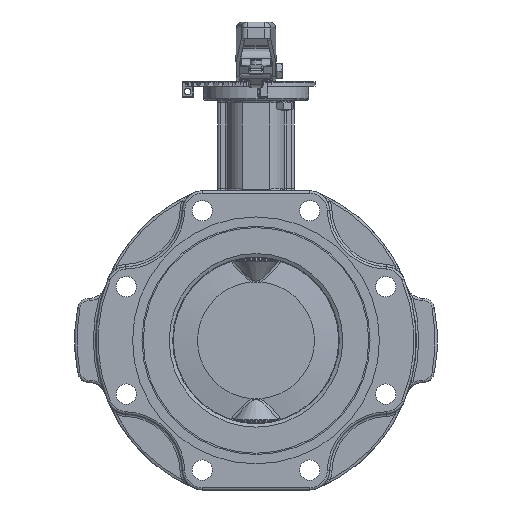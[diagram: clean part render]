
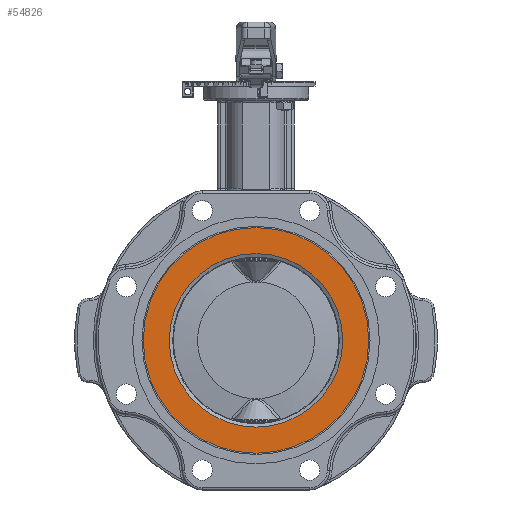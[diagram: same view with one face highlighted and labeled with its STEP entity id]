
A CAD part, left-side view. The second image highlights one B-rep face of the part: STEP entity #54826.
In plain terms, the highlighted planar face has unit normal (-1, 0, 0).
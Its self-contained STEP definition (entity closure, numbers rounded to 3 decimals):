
#54594=CARTESIAN_POINT('',(-28.1,-74.135,0.0));
#54595=VERTEX_POINT('',#54594);
#54596=CARTESIAN_POINT('',(-28.1,0.,0.0));
#54597=DIRECTION('',(1.0,0.0,0.0));
#54598=DIRECTION('',(0.0,-1.0,0.0));
#54599=AXIS2_PLACEMENT_3D('',#54596,#54597,#54598);
#54600=CIRCLE('',#54599,74.135);
#54601=EDGE_CURVE('',#54595,#54595,#54600,.T.);
#54768=CARTESIAN_POINT('',(-28.1,-96.4,0.0));
#54769=VERTEX_POINT('',#54768);
#54770=CARTESIAN_POINT('',(-28.1,0.,0.0));
#54771=DIRECTION('',(1.0,0.0,0.0));
#54772=DIRECTION('',(0.0,-1.0,0.0));
#54773=AXIS2_PLACEMENT_3D('',#54770,#54771,#54772);
#54774=CIRCLE('',#54773,96.4);
#54775=EDGE_CURVE('',#54769,#54769,#54774,.T.);
#54815=CARTESIAN_POINT('',(-28.1,-85.267,0.0));
#54816=DIRECTION('',(-1.0,0.0,0.0));
#54817=DIRECTION('',(0.0,0.0,1.0));
#54818=AXIS2_PLACEMENT_3D('',#54815,#54816,#54817);
#54819=PLANE('',#54818);
#54820=ORIENTED_EDGE('',*,*,#54775,.F.);
#54821=EDGE_LOOP('',(#54820));
#54822=FACE_OUTER_BOUND('',#54821,.T.);
#54823=ORIENTED_EDGE('',*,*,#54601,.T.);
#54824=EDGE_LOOP('',(#54823));
#54825=FACE_BOUND('',#54824,.T.);
#54826=ADVANCED_FACE('',(#54822,#54825),#54819,.T.);
